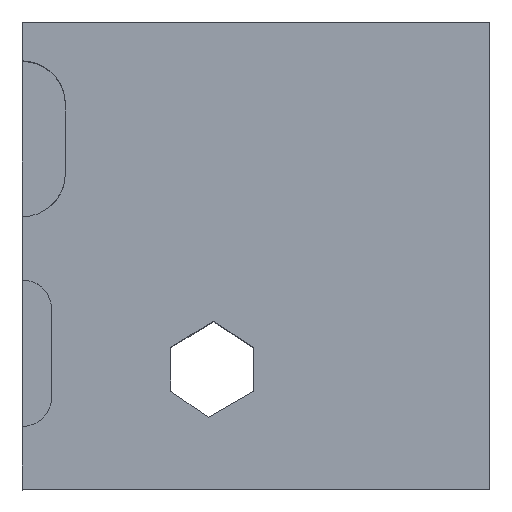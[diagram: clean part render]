
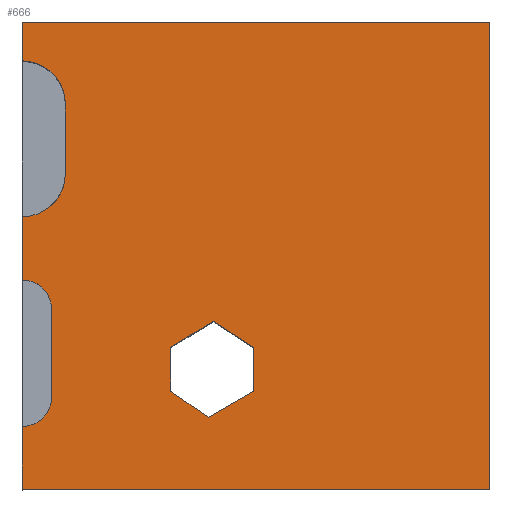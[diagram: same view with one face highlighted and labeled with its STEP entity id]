
A CAD part, top view. The second image highlights one B-rep face of the part: STEP entity #666.
In plain terms, the highlighted planar face has unit normal (0, 0, 1).
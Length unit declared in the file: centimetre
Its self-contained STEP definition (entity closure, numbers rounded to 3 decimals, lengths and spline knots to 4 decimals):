
#3 = ORIENTED_EDGE ( 'NONE', *, *, #1023, .F. ) ;
#4 = LINE ( 'NONE', #1308, #594 ) ;
#7 = LINE ( 'NONE', #892, #785 ) ;
#39 = CARTESIAN_POINT ( 'NONE',  ( 62.982, 385.0763, 1000. ) ) ;
#50 = VECTOR ( 'NONE', #1071, 100. ) ;
#59 = CARTESIAN_POINT ( 'NONE',  ( 495.1698, 303.7877, 1000. ) ) ;
#68 = LINE ( 'NONE', #1352, #1204 ) ;
#79 = ORIENTED_EDGE ( 'NONE', *, *, #871, .F. ) ;
#91 = VERTEX_POINT ( 'NONE', #453 ) ;
#119 = DIRECTION ( 'NONE',  ( 1., 0., 0. ) ) ;
#127 = EDGE_CURVE ( 'NONE', #435, #91, #607, .T. ) ;
#130 = CARTESIAN_POINT ( 'NONE',  ( 1000., 0., 1000. ) ) ;
#159 = CARTESIAN_POINT ( 'NONE',  ( 1000., 1000., 1000. ) ) ;
#163 = ORIENTED_EDGE ( 'NONE', *, *, #1636, .F. ) ;
#188 = DIRECTION ( 'NONE',  ( 0., -1., 0. ) ) ;
#199 = AXIS2_PLACEMENT_3D ( 'NONE', #1151, #645, #119 ) ;
#226 = ORIENTED_EDGE ( 'NONE', *, *, #127, .F. ) ;
#231 = ORIENTED_EDGE ( 'NONE', *, *, #1203, .F. ) ;
#278 = AXIS2_PLACEMENT_3D ( 'NONE', #974, #1004, #1257 ) ;
#295 = DIRECTION ( 'NONE',  ( -0.854, -0.521, 0. ) ) ;
#307 = CARTESIAN_POINT ( 'NONE',  ( 0., 1000., 1000. ) ) ;
#365 = VERTEX_POINT ( 'NONE', #159 ) ;
#375 = LINE ( 'NONE', #505, #391 ) ;
#387 = FACE_OUTER_BOUND ( 'NONE', #644, .T. ) ;
#391 = VECTOR ( 'NONE', #402, 100. ) ;
#402 = DIRECTION ( 'NONE',  ( 0., 1., 0. ) ) ;
#414 = CARTESIAN_POINT ( 'NONE',  ( 0., 916.7932, 1000. ) ) ;
#429 = DIRECTION ( 'NONE',  ( 0., 1., 0. ) ) ;
#432 = LINE ( 'NONE', #307, #680 ) ;
#435 = VERTEX_POINT ( 'NONE', #1351 ) ;
#437 = DIRECTION ( 'NONE',  ( 1., 0., 0. ) ) ;
#453 = CARTESIAN_POINT ( 'NONE',  ( 495.1698, 210.0103, 1000. ) ) ;
#473 = VERTEX_POINT ( 'NONE', #832 ) ;
#490 = ORIENTED_EDGE ( 'NONE', *, *, #1445, .F. ) ;
#492 = EDGE_CURVE ( 'NONE', #631, #749, #857, .T. ) ;
#498 = ORIENTED_EDGE ( 'NONE', *, *, #492, .F. ) ;
#505 = CARTESIAN_POINT ( 'NONE',  ( 62.982, 385.0763, 1000. ) ) ;
#507 = EDGE_CURVE ( 'NONE', #1111, #616, #1130, .T. ) ;
#509 = DIRECTION ( 'NONE',  ( 0., -1., 0. ) ) ;
#527 = DIRECTION ( 'NONE',  ( -1., 0., 0. ) ) ;
#571 = LINE ( 'NONE', #1482, #955 ) ;
#583 = LINE ( 'NONE', #608, #1472 ) ;
#586 = VECTOR ( 'NONE', #968, 100. ) ;
#594 = VECTOR ( 'NONE', #1571, 100. ) ;
#607 = LINE ( 'NONE', #1132, #1094 ) ;
#608 = CARTESIAN_POINT ( 'NONE',  ( 1000., 1000., 1000. ) ) ;
#616 = VERTEX_POINT ( 'NONE', #130 ) ;
#619 = ORIENTED_EDGE ( 'NONE', *, *, #1149, .T. ) ;
#620 = AXIS2_PLACEMENT_3D ( 'NONE', #1302, #1175, #527 ) ;
#621 = ORIENTED_EDGE ( 'NONE', *, *, #1598, .F. ) ;
#631 = VERTEX_POINT ( 'NONE', #1404 ) ;
#643 = VERTEX_POINT ( 'NONE', #752 ) ;
#644 = EDGE_LOOP ( 'NONE', ( #498, #1287, #1438, #772, #1532, #1137, #79, #231, #1431, #619, #1327, #490 ) ) ;
#645 = DIRECTION ( 'NONE',  ( 0., 0., 1. ) ) ;
#653 = CARTESIAN_POINT ( 'NONE',  ( 317.0892, 303.7877, 1000. ) ) ;
#662 = CARTESIAN_POINT ( 'NONE',  ( 317.0892, 210.0103, 1000. ) ) ;
#666 = ADVANCED_FACE ( 'NONE', ( #1274, #387 ), #1395, .T. ) ;
#680 = VECTOR ( 'NONE', #1588, 100. ) ;
#709 = ORIENTED_EDGE ( 'NONE', *, *, #1088, .F. ) ;
#725 = EDGE_CURVE ( 'NONE', #742, #1637, #789, .T. ) ;
#742 = VERTEX_POINT ( 'NONE', #59 ) ;
#749 = VERTEX_POINT ( 'NONE', #1471 ) ;
#751 = EDGE_CURVE ( 'NONE', #631, #1111, #432, .T. ) ;
#752 = CARTESIAN_POINT ( 'NONE',  ( 0., 583.3962, 1000. ) ) ;
#772 = ORIENTED_EDGE ( 'NONE', *, *, #1344, .T. ) ;
#785 = VECTOR ( 'NONE', #509, 100. ) ;
#789 = LINE ( 'NONE', #1578, #859 ) ;
#795 = DIRECTION ( 'NONE',  ( 0.824, -0.567, 0. ) ) ;
#815 = CARTESIAN_POINT ( 'NONE',  ( 408.7384, 359.7139, 1000. ) ) ;
#827 = CARTESIAN_POINT ( 'NONE',  ( 0., 0., 1000. ) ) ;
#830 = LINE ( 'NONE', #1232, #50 ) ;
#832 = CARTESIAN_POINT ( 'NONE',  ( 92.0952, 675.4914, 1000. ) ) ;
#857 = CIRCLE ( 'NONE', #278, 62.982 ) ;
#859 = VECTOR ( 'NONE', #1596, 100. ) ;
#871 = EDGE_CURVE ( 'NONE', #1545, #990, #951, .T. ) ;
#873 = CARTESIAN_POINT ( 'NONE',  ( 0., 824.698, 1000. ) ) ;
#892 = CARTESIAN_POINT ( 'NONE',  ( 317.0892, 303.7877, 1000. ) ) ;
#895 = AXIS2_PLACEMENT_3D ( 'NONE', #965, #1600, #437 ) ;
#912 = LINE ( 'NONE', #1437, #1548 ) ;
#951 = CIRCLE ( 'NONE', #1515, 92.0952 ) ;
#955 = VECTOR ( 'NONE', #188, 100. ) ;
#965 = CARTESIAN_POINT ( 'NONE',  ( 0., 675.4914, 1000. ) ) ;
#968 = DIRECTION ( 'NONE',  ( 1., 0., 0. ) ) ;
#974 = CARTESIAN_POINT ( 'NONE',  ( 0., 197.6634, 1000. ) ) ;
#985 = VERTEX_POINT ( 'NONE', #1191 ) ;
#990 = VERTEX_POINT ( 'NONE', #414 ) ;
#1004 = DIRECTION ( 'NONE',  ( 0., 0., 1. ) ) ;
#1011 = CIRCLE ( 'NONE', #895, 92.0952 ) ;
#1022 = ORIENTED_EDGE ( 'NONE', *, *, #725, .F. ) ;
#1023 = EDGE_CURVE ( 'NONE', #1499, #435, #912, .T. ) ;
#1053 = VERTEX_POINT ( 'NONE', #653 ) ;
#1066 = VECTOR ( 'NONE', #1189, 100. ) ;
#1071 = DIRECTION ( 'NONE',  ( 0., 1., 0. ) ) ;
#1088 = EDGE_CURVE ( 'NONE', #1053, #1499, #7, .T. ) ;
#1094 = VECTOR ( 'NONE', #1624, 100. ) ;
#1105 = EDGE_CURVE ( 'NONE', #1460, #985, #1443, .T. ) ;
#1111 = VERTEX_POINT ( 'NONE', #1618 ) ;
#1130 = LINE ( 'NONE', #827, #586 ) ;
#1132 = CARTESIAN_POINT ( 'NONE',  ( 398.3028, 154.0841, 1000. ) ) ;
#1137 = ORIENTED_EDGE ( 'NONE', *, *, #1413, .T. ) ;
#1147 = DIRECTION ( 'NONE',  ( -1., 0., 0. ) ) ;
#1149 = EDGE_CURVE ( 'NONE', #643, #985, #571, .T. ) ;
#1151 = CARTESIAN_POINT ( 'NONE',  ( 0., 0., 1000. ) ) ;
#1175 = DIRECTION ( 'NONE',  ( 0., 0., 1. ) ) ;
#1189 = DIRECTION ( 'NONE',  ( 0., -1., 0. ) ) ;
#1191 = CARTESIAN_POINT ( 'NONE',  ( 0., 448.0583, 1000. ) ) ;
#1203 = EDGE_CURVE ( 'NONE', #473, #1545, #830, .T. ) ;
#1204 = VECTOR ( 'NONE', #295, 100. ) ;
#1208 = LINE ( 'NONE', #1459, #1227 ) ;
#1227 = VECTOR ( 'NONE', #429, 100. ) ;
#1232 = CARTESIAN_POINT ( 'NONE',  ( 92.0952, 824.698, 1000. ) ) ;
#1247 = EDGE_CURVE ( 'NONE', #643, #473, #1011, .T. ) ;
#1257 = DIRECTION ( 'NONE',  ( 1., 0., 0. ) ) ;
#1274 = FACE_BOUND ( 'NONE', #1574, .T. ) ;
#1287 = ORIENTED_EDGE ( 'NONE', *, *, #751, .T. ) ;
#1299 = CARTESIAN_POINT ( 'NONE',  ( 92.0952, 824.698, 1000. ) ) ;
#1302 = CARTESIAN_POINT ( 'NONE',  ( 0., 385.0763, 1000. ) ) ;
#1308 = CARTESIAN_POINT ( 'NONE',  ( 0., 1000., 1000. ) ) ;
#1327 = ORIENTED_EDGE ( 'NONE', *, *, #1105, .F. ) ;
#1344 = EDGE_CURVE ( 'NONE', #616, #365, #583, .T. ) ;
#1351 = CARTESIAN_POINT ( 'NONE',  ( 398.3028, 154.0841, 1000. ) ) ;
#1352 = CARTESIAN_POINT ( 'NONE',  ( 408.7384, 359.7139, 1000. ) ) ;
#1376 = DIRECTION ( 'NONE',  ( 0., 0., 1. ) ) ;
#1395 = PLANE ( 'NONE',  #199 ) ;
#1396 = VERTEX_POINT ( 'NONE', #1509 ) ;
#1404 = CARTESIAN_POINT ( 'NONE',  ( 0., 134.6814, 1000. ) ) ;
#1413 = EDGE_CURVE ( 'NONE', #1396, #990, #1562, .T. ) ;
#1431 = ORIENTED_EDGE ( 'NONE', *, *, #1247, .F. ) ;
#1437 = CARTESIAN_POINT ( 'NONE',  ( 317.0892, 210.0103, 1000. ) ) ;
#1438 = ORIENTED_EDGE ( 'NONE', *, *, #507, .T. ) ;
#1443 = CIRCLE ( 'NONE', #620, 62.982 ) ;
#1445 = EDGE_CURVE ( 'NONE', #749, #1460, #375, .T. ) ;
#1459 = CARTESIAN_POINT ( 'NONE',  ( 495.1698, 210.0103, 1000. ) ) ;
#1460 = VERTEX_POINT ( 'NONE', #39 ) ;
#1469 = EDGE_CURVE ( 'NONE', #365, #1396, #4, .T. ) ;
#1471 = CARTESIAN_POINT ( 'NONE',  ( 62.982, 197.6634, 1000. ) ) ;
#1472 = VECTOR ( 'NONE', #1642, 100. ) ;
#1482 = CARTESIAN_POINT ( 'NONE',  ( 0., 1000., 1000. ) ) ;
#1499 = VERTEX_POINT ( 'NONE', #662 ) ;
#1509 = CARTESIAN_POINT ( 'NONE',  ( 0., 1000., 1000. ) ) ;
#1515 = AXIS2_PLACEMENT_3D ( 'NONE', #873, #1376, #1147 ) ;
#1532 = ORIENTED_EDGE ( 'NONE', *, *, #1469, .T. ) ;
#1540 = CARTESIAN_POINT ( 'NONE',  ( 0., 1000., 1000. ) ) ;
#1545 = VERTEX_POINT ( 'NONE', #1299 ) ;
#1548 = VECTOR ( 'NONE', #795, 100. ) ;
#1562 = LINE ( 'NONE', #1540, #1066 ) ;
#1571 = DIRECTION ( 'NONE',  ( -1., 0., 0. ) ) ;
#1574 = EDGE_LOOP ( 'NONE', ( #621, #226, #3, #709, #163, #1022 ) ) ;
#1578 = CARTESIAN_POINT ( 'NONE',  ( 495.1698, 303.7877, 1000. ) ) ;
#1588 = DIRECTION ( 'NONE',  ( 0., -1., 0. ) ) ;
#1596 = DIRECTION ( 'NONE',  ( -0.84, 0.543, 0. ) ) ;
#1598 = EDGE_CURVE ( 'NONE', #91, #742, #1208, .T. ) ;
#1600 = DIRECTION ( 'NONE',  ( 0., 0., 1. ) ) ;
#1618 = CARTESIAN_POINT ( 'NONE',  ( 0., 0., 1000. ) ) ;
#1624 = DIRECTION ( 'NONE',  ( 0.866, 0.5, 0. ) ) ;
#1636 = EDGE_CURVE ( 'NONE', #1637, #1053, #68, .T. ) ;
#1637 = VERTEX_POINT ( 'NONE', #815 ) ;
#1642 = DIRECTION ( 'NONE',  ( 0., 1., 0. ) ) ;
